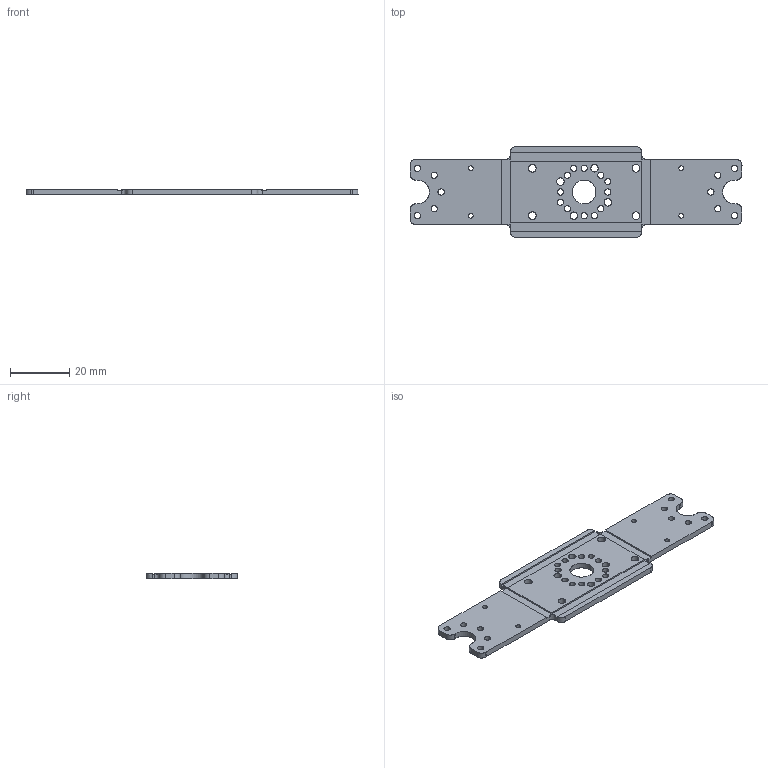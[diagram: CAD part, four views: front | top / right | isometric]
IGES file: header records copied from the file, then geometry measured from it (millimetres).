
Global section: file name: C:\Users\Knabe\Documents\Classes\8 Semester 8\DARwIn\Deliverables\DARwIn OP\DARwIn OP Part Files\CAD 2D\2D IGS\13_FR07_H120.igs; native system: NX V7.0; preprocessor: SIEMENS PLM Software NX 7.0; date: 20110525.175116; units: millimetre
Bounding box: 112.14 x 30.64 x 2 mm (x, y, z)
Surface area: 6369.3 mm2 (no closed solid volume)
Topology: 0 solids, 0 shells, 155 faces, 1340 edges, 1364 vertices
Faces by surface type: bspline 155
